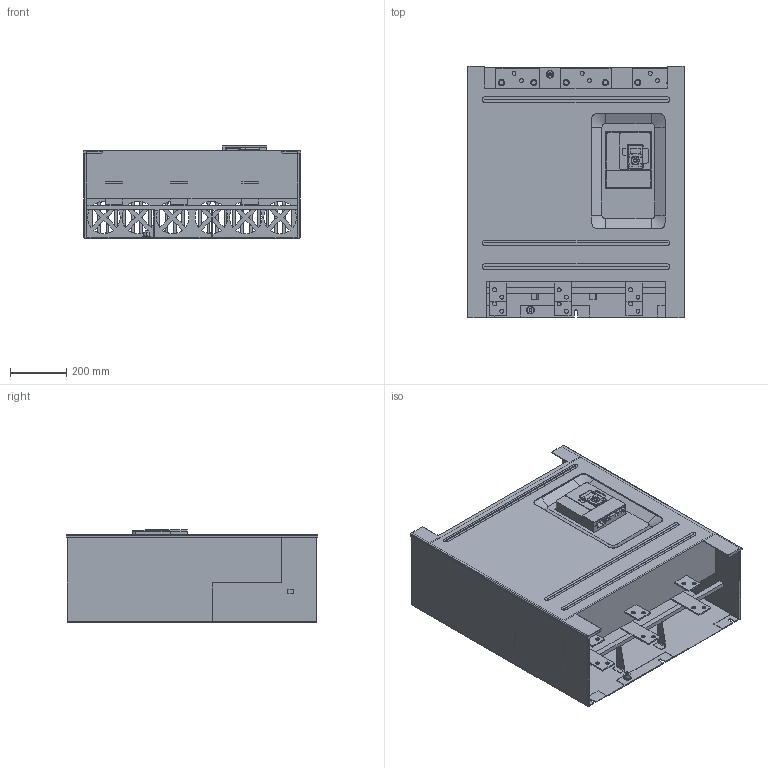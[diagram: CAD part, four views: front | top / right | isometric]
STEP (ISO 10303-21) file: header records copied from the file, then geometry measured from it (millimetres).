
FILE_DESCRIPTION((''),'2;1');
FILE_NAME('ATS480_F_3D-SIMPL_ASM','2025-07-29T17:01:24',('SESA407868'),('Schneider-Electric'),'CREO PARAMETRIC BY PTC INC, 2022484','CREO PARAMETRIC BY PTC INC, 2022484','');
FILE_SCHEMA(('AP242_MANAGED_MODEL_BASED_3D_ENGINEERING_MIM_LF { 1 0 10303 442 1 1 4 }'));
Products named in the file (12): PRT0001_3_1_1_1_1; PRT0001_3_2_1_1_1; PRT0001_3_3_1_1_1; PRT0001_3_4_1_1_1; PRT0001_3_5_1_1_1; PRT0001_3_6_1_1_1; PRT0001_3_7_1_1_1; PRT0001_3_ASM_1_1_ASM_1_ASM; PRT0003_1_1_2_3_4_5_1_1_1; PRT0004_1_1_2_3_4_1_1_1; ATS480_SF_SIMP_REP_ASM-1_ASM_1_ASM; ATS480_F_3D-SIMPL_ASM
Assembly tree (11 placements, depth 4):
  ATS480_F_3D-SIMPL_ASM
    ATS480_SF_SIMP_REP_ASM-1_ASM_1_ASM
      PRT0001_3_ASM_1_1_ASM_1_ASM
        PRT0001_3_1_1_1_1
        PRT0001_3_2_1_1_1
        PRT0001_3_3_1_1_1
        PRT0001_3_4_1_1_1
        PRT0001_3_5_1_1_1
        PRT0001_3_6_1_1_1
        PRT0001_3_7_1_1_1
      PRT0003_1_1_2_3_4_5_1_1_1
      PRT0004_1_1_2_3_4_1_1_1
Bounding box: 776 x 896.5 x 330.1 mm (x, y, z)
Volume: 14504761.4 mm3; surface area: 5123713.5 mm2
Topology: 9 solids, 15 shells, 2311 faces, 6774 edges, 4533 vertices
Faces by surface type: plane 1358, cylinder 621, cone 320, extrusion 8, bspline 4
Entity records: 79568 total; most frequent: CARTESIAN_POINT 15548, ORIENTED_EDGE 13548, DIRECTION 13157, EDGE_CURVE 6774, VERTEX_POINT 4533, VECTOR 4527, LINE 4519, AXIS2_PLACEMENT_3D 4315
